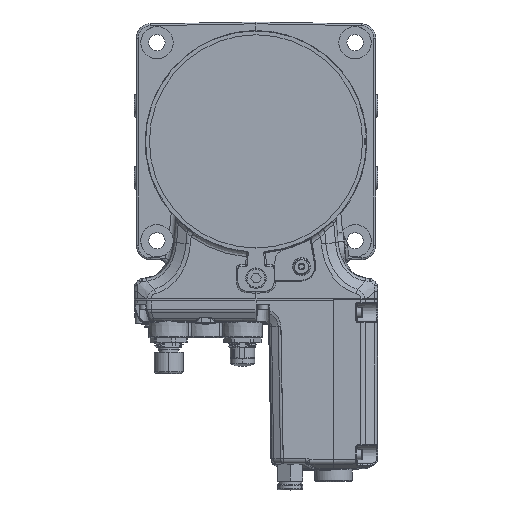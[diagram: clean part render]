
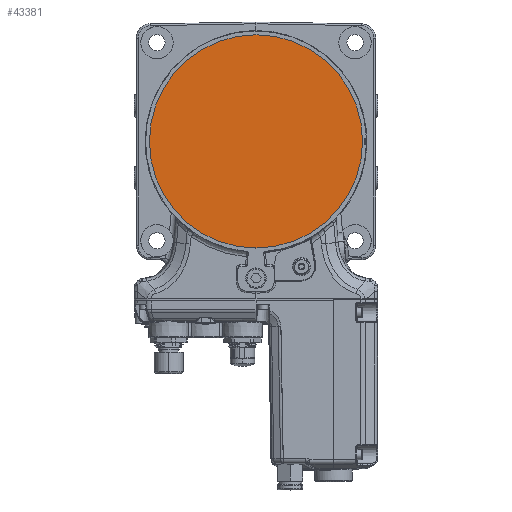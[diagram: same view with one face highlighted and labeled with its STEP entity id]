
A CAD part, top view. The second image highlights one B-rep face of the part: STEP entity #43381.
In plain terms, the highlighted planar face has unit normal (0, 0, 1).
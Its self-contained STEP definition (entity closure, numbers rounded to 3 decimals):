
#6380 = DIRECTION ( 'NONE',  ( 1., 0., 0. ) ) ;
#6797 = CARTESIAN_POINT ( 'NONE',  ( 0., 0., 123. ) ) ;
#9474 = DIRECTION ( 'NONE',  ( -1., 0., 0. ) ) ;
#11945 = ORIENTED_EDGE ( 'NONE', *, *, #20787, .F. ) ;
#12880 = CIRCLE ( 'NONE', #30461, 59.2 ) ;
#13075 = CARTESIAN_POINT ( 'NONE',  ( 59.2, 0., 123. ) ) ;
#13383 = DIRECTION ( 'NONE',  ( -1., 0., 0. ) ) ;
#14390 = AXIS2_PLACEMENT_3D ( 'NONE', #56376, #17764, #6380 ) ;
#17511 = AXIS2_PLACEMENT_3D ( 'NONE', #20471, #37403, #9474 ) ;
#17764 = DIRECTION ( 'NONE',  ( 0., 0., 1. ) ) ;
#20471 = CARTESIAN_POINT ( 'NONE',  ( 0., 0., 123. ) ) ;
#20787 = EDGE_CURVE ( 'NONE', #44288, #63675, #31614, .T. ) ;
#30461 = AXIS2_PLACEMENT_3D ( 'NONE', #6797, #63731, #13383 ) ;
#31614 = CIRCLE ( 'NONE', #17511, 59.2 ) ;
#37403 = DIRECTION ( 'NONE',  ( 0., 0., -1. ) ) ;
#38486 = ORIENTED_EDGE ( 'NONE', *, *, #49508, .F. ) ;
#38743 = FACE_OUTER_BOUND ( 'NONE', #63609, .T. ) ;
#43381 = ADVANCED_FACE ( 'NONE', ( #38743 ), #62253, .T. ) ;
#44288 = VERTEX_POINT ( 'NONE', #13075 ) ;
#49508 = EDGE_CURVE ( 'NONE', #63675, #44288, #12880, .T. ) ;
#56376 = CARTESIAN_POINT ( 'NONE',  ( 0., -59.2, 123. ) ) ;
#62253 = PLANE ( 'NONE',  #14390 ) ;
#63609 = EDGE_LOOP ( 'NONE', ( #38486, #11945 ) ) ;
#63675 = VERTEX_POINT ( 'NONE', #64393 ) ;
#63731 = DIRECTION ( 'NONE',  ( 0., 0., -1. ) ) ;
#64393 = CARTESIAN_POINT ( 'NONE',  ( -59.2, 0., 123. ) ) ;
